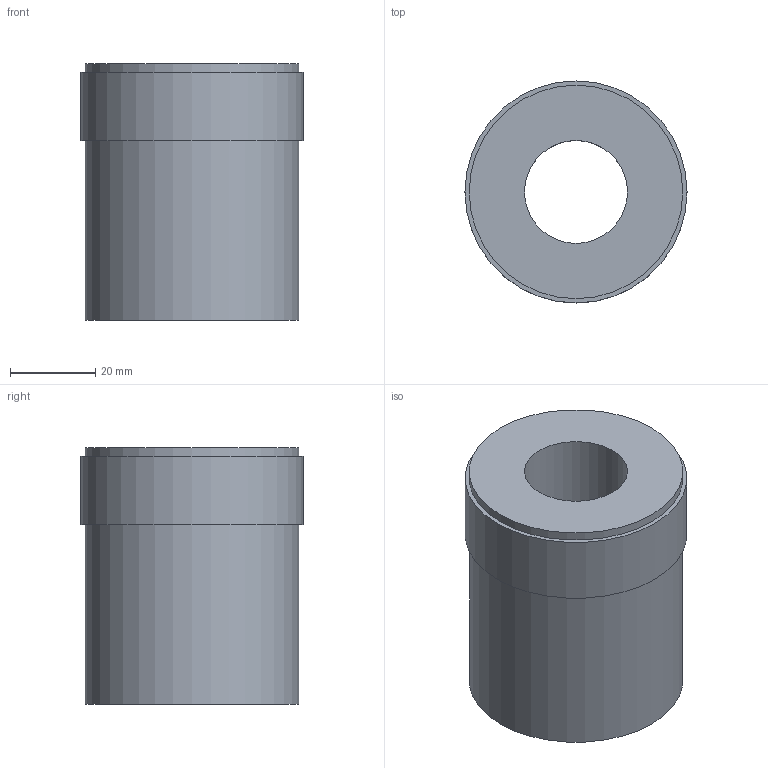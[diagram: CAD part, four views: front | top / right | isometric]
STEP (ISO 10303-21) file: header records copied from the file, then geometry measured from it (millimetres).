
FILE_DESCRIPTION(/* description */ (''),/* implementation_level */ '2;1');
FILE_NAME(/* name */ 'Z:\Geberit\Export\NewStep\361720.stp',/* time_stamp */ '2014-04-01T21:07:03+02:00',/* author */ ('nelson'),/* organization */ (''),/* preprocessor_version */ 'ST-DEVELOPER v15.2',/* originating_system */ 'Autodesk Inventor 2014',/* authorisation */ '');
FILE_SCHEMA (('AUTOMOTIVE_DESIGN { 1 0 10303 214 3 1 1 }'));
Length unit declared in the file: millimetre
Products named in the file (1): 361720
Bounding box: 52 x 52 x 60 mm (x, y, z)
Volume: 54223.7 mm3; surface area: 19178.4 mm2
Topology: 1 solids, 1 shells, 11 faces, 21 edges, 14 vertices
Faces by surface type: cylinder 5, plane 4, torus 1, cone 1
Full cylindrical faces by diameter (mm): 24.117 x1, 44 x1, 50 x2, 52 x1
Entity records: 259 total; most frequent: DIRECTION 46, CARTESIAN_POINT 34, AXIS2_PLACEMENT_3D 23, EDGE_LOOP 22, ORIENTED_EDGE 22, FACE_BOUND 14, CIRCLE 11, VERTEX_POINT 11
